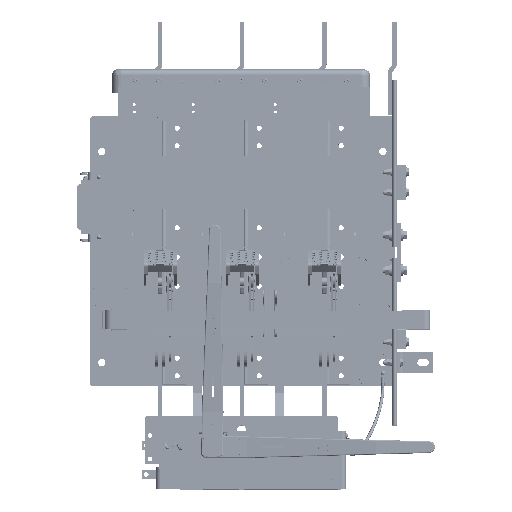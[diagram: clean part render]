
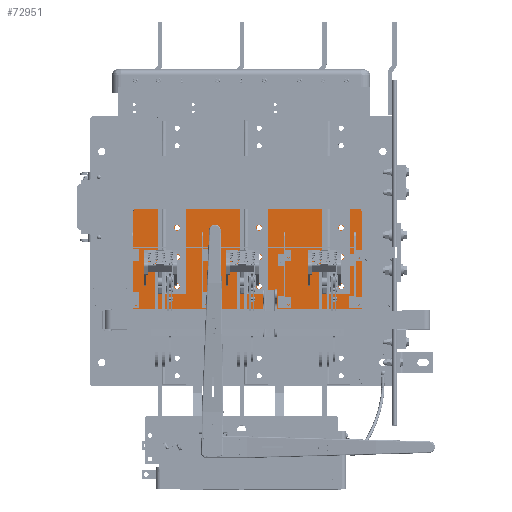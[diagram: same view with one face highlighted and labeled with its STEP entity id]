
A CAD part, top view. The second image highlights one B-rep face of the part: STEP entity #72951.
In plain terms, the highlighted planar face has unit normal (0, 0, 1).
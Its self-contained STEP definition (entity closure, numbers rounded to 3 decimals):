
#3208=FACE_BOUND('',#11629,.T.);
#3209=FACE_BOUND('',#11630,.T.);
#3210=FACE_BOUND('',#11631,.T.);
#3211=FACE_BOUND('',#11632,.T.);
#3212=FACE_BOUND('',#11633,.T.);
#3213=FACE_BOUND('',#11634,.T.);
#3214=FACE_BOUND('',#11635,.T.);
#3215=FACE_BOUND('',#11636,.T.);
#3216=FACE_BOUND('',#11637,.T.);
#3217=FACE_BOUND('',#11638,.T.);
#3218=FACE_BOUND('',#11639,.T.);
#3219=FACE_BOUND('',#11640,.T.);
#3220=FACE_BOUND('',#11641,.T.);
#3221=FACE_BOUND('',#11642,.T.);
#3222=FACE_BOUND('',#11643,.T.);
#3223=FACE_BOUND('',#11644,.T.);
#3224=FACE_BOUND('',#11645,.T.);
#4756=PLANE('',#79769);
#7348=FACE_OUTER_BOUND('',#11628,.T.);
#11628=EDGE_LOOP('',(#54333,#54334,#54335,#54336,#54337,#54338));
#11629=EDGE_LOOP('',(#54339));
#11630=EDGE_LOOP('',(#54340));
#11631=EDGE_LOOP('',(#54341));
#11632=EDGE_LOOP('',(#54342));
#11633=EDGE_LOOP('',(#54343));
#11634=EDGE_LOOP('',(#54344));
#11635=EDGE_LOOP('',(#54345));
#11636=EDGE_LOOP('',(#54346));
#11637=EDGE_LOOP('',(#54347));
#11638=EDGE_LOOP('',(#54348));
#11639=EDGE_LOOP('',(#54349));
#11640=EDGE_LOOP('',(#54350));
#11641=EDGE_LOOP('',(#54351));
#11642=EDGE_LOOP('',(#54352));
#11643=EDGE_LOOP('',(#54353));
#11644=EDGE_LOOP('',(#54354));
#11645=EDGE_LOOP('',(#54355));
#16666=CIRCLE('',#79552,0.07);
#16668=CIRCLE('',#79556,0.07);
#16670=CIRCLE('',#79560,0.07);
#16672=CIRCLE('',#79564,0.07);
#16674=CIRCLE('',#79568,0.07);
#16676=CIRCLE('',#79572,0.07);
#16678=CIRCLE('',#79576,0.07);
#16680=CIRCLE('',#79580,0.07);
#16684=CIRCLE('',#79588,0.219);
#16685=CIRCLE('',#79590,0.219);
#16686=CIRCLE('',#79592,0.219);
#16687=CIRCLE('',#79594,0.219);
#16688=CIRCLE('',#79596,0.219);
#16689=CIRCLE('',#79598,0.219);
#16690=CIRCLE('',#79600,0.219);
#16691=CIRCLE('',#79602,0.219);
#16692=CIRCLE('',#79604,0.219);
#16771=CIRCLE('',#79763,0.237);
#16772=CIRCLE('',#79768,0.237);
#20561=LINE('',#112351,#26864);
#20565=LINE('',#112360,#26868);
#20567=LINE('',#112364,#26870);
#20569=LINE('',#112368,#26872);
#26864=VECTOR('',#90725,0.394);
#26868=VECTOR('',#90735,0.394);
#26870=VECTOR('',#90739,0.394);
#26872=VECTOR('',#90743,0.394);
#33353=VERTEX_POINT('',#111892);
#33355=VERTEX_POINT('',#111899);
#33357=VERTEX_POINT('',#111906);
#33359=VERTEX_POINT('',#111913);
#33361=VERTEX_POINT('',#111920);
#33363=VERTEX_POINT('',#111927);
#33365=VERTEX_POINT('',#111934);
#33367=VERTEX_POINT('',#111941);
#33371=VERTEX_POINT('',#111955);
#33372=VERTEX_POINT('',#111959);
#33373=VERTEX_POINT('',#111963);
#33374=VERTEX_POINT('',#111967);
#33375=VERTEX_POINT('',#111971);
#33376=VERTEX_POINT('',#111975);
#33377=VERTEX_POINT('',#111979);
#33378=VERTEX_POINT('',#111983);
#33379=VERTEX_POINT('',#111987);
#33491=VERTEX_POINT('',#112349);
#33492=VERTEX_POINT('',#112350);
#33493=VERTEX_POINT('',#112355);
#33494=VERTEX_POINT('',#112359);
#33495=VERTEX_POINT('',#112363);
#33496=VERTEX_POINT('',#112367);
#41027=EDGE_CURVE('',#33353,#33353,#16666,.T.);
#41030=EDGE_CURVE('',#33355,#33355,#16668,.T.);
#41033=EDGE_CURVE('',#33357,#33357,#16670,.T.);
#41036=EDGE_CURVE('',#33359,#33359,#16672,.T.);
#41039=EDGE_CURVE('',#33361,#33361,#16674,.T.);
#41042=EDGE_CURVE('',#33363,#33363,#16676,.T.);
#41045=EDGE_CURVE('',#33365,#33365,#16678,.T.);
#41048=EDGE_CURVE('',#33367,#33367,#16680,.T.);
#41054=EDGE_CURVE('',#33371,#33371,#16684,.T.);
#41056=EDGE_CURVE('',#33372,#33372,#16685,.T.);
#41058=EDGE_CURVE('',#33373,#33373,#16686,.T.);
#41060=EDGE_CURVE('',#33374,#33374,#16687,.T.);
#41062=EDGE_CURVE('',#33375,#33375,#16688,.T.);
#41064=EDGE_CURVE('',#33376,#33376,#16689,.T.);
#41066=EDGE_CURVE('',#33377,#33377,#16690,.T.);
#41068=EDGE_CURVE('',#33378,#33378,#16691,.T.);
#41070=EDGE_CURVE('',#33379,#33379,#16692,.T.);
#41241=EDGE_CURVE('',#33491,#33492,#20561,.T.);
#41244=EDGE_CURVE('',#33492,#33493,#16771,.T.);
#41246=EDGE_CURVE('',#33493,#33494,#20565,.T.);
#41248=EDGE_CURVE('',#33494,#33495,#20567,.T.);
#41250=EDGE_CURVE('',#33495,#33496,#20569,.T.);
#41252=EDGE_CURVE('',#33496,#33491,#16772,.T.);
#54333=ORIENTED_EDGE('',*,*,#41241,.F.);
#54334=ORIENTED_EDGE('',*,*,#41252,.F.);
#54335=ORIENTED_EDGE('',*,*,#41250,.F.);
#54336=ORIENTED_EDGE('',*,*,#41248,.F.);
#54337=ORIENTED_EDGE('',*,*,#41246,.F.);
#54338=ORIENTED_EDGE('',*,*,#41244,.F.);
#54339=ORIENTED_EDGE('',*,*,#41027,.T.);
#54340=ORIENTED_EDGE('',*,*,#41030,.T.);
#54341=ORIENTED_EDGE('',*,*,#41033,.T.);
#54342=ORIENTED_EDGE('',*,*,#41036,.T.);
#54343=ORIENTED_EDGE('',*,*,#41039,.T.);
#54344=ORIENTED_EDGE('',*,*,#41042,.T.);
#54345=ORIENTED_EDGE('',*,*,#41045,.T.);
#54346=ORIENTED_EDGE('',*,*,#41048,.T.);
#54347=ORIENTED_EDGE('',*,*,#41054,.T.);
#54348=ORIENTED_EDGE('',*,*,#41056,.T.);
#54349=ORIENTED_EDGE('',*,*,#41058,.T.);
#54350=ORIENTED_EDGE('',*,*,#41060,.T.);
#54351=ORIENTED_EDGE('',*,*,#41062,.T.);
#54352=ORIENTED_EDGE('',*,*,#41064,.T.);
#54353=ORIENTED_EDGE('',*,*,#41066,.T.);
#54354=ORIENTED_EDGE('',*,*,#41068,.T.);
#54355=ORIENTED_EDGE('',*,*,#41070,.T.);
#72951=ADVANCED_FACE('',(#7348,#3208,#3209,#3210,#3211,#3212,#3213,#3214,
#3215,#3216,#3217,#3218,#3219,#3220,#3221,#3222,#3223,#3224),#4756,.T.);
#79552=AXIS2_PLACEMENT_3D('',#111893,#90196,#90197);
#79556=AXIS2_PLACEMENT_3D('',#111900,#90205,#90206);
#79560=AXIS2_PLACEMENT_3D('',#111907,#90214,#90215);
#79564=AXIS2_PLACEMENT_3D('',#111914,#90223,#90224);
#79568=AXIS2_PLACEMENT_3D('',#111921,#90232,#90233);
#79572=AXIS2_PLACEMENT_3D('',#111928,#90241,#90242);
#79576=AXIS2_PLACEMENT_3D('',#111935,#90250,#90251);
#79580=AXIS2_PLACEMENT_3D('',#111942,#90259,#90260);
#79588=AXIS2_PLACEMENT_3D('',#111956,#90277,#90278);
#79590=AXIS2_PLACEMENT_3D('',#111960,#90282,#90283);
#79592=AXIS2_PLACEMENT_3D('',#111964,#90287,#90288);
#79594=AXIS2_PLACEMENT_3D('',#111968,#90292,#90293);
#79596=AXIS2_PLACEMENT_3D('',#111972,#90297,#90298);
#79598=AXIS2_PLACEMENT_3D('',#111976,#90302,#90303);
#79600=AXIS2_PLACEMENT_3D('',#111980,#90307,#90308);
#79602=AXIS2_PLACEMENT_3D('',#111984,#90312,#90313);
#79604=AXIS2_PLACEMENT_3D('',#111988,#90317,#90318);
#79763=AXIS2_PLACEMENT_3D('',#112356,#90730,#90731);
#79768=AXIS2_PLACEMENT_3D('',#112371,#90747,#90748);
#79769=AXIS2_PLACEMENT_3D('',#112372,#90749,#90750);
#90196=DIRECTION('center_axis',(0.,0.,-1.));
#90197=DIRECTION('ref_axis',(-1.,0.,0.));
#90205=DIRECTION('center_axis',(0.,0.,-1.));
#90206=DIRECTION('ref_axis',(-1.,0.,0.));
#90214=DIRECTION('center_axis',(0.,0.,-1.));
#90215=DIRECTION('ref_axis',(-1.,0.,0.));
#90223=DIRECTION('center_axis',(0.,0.,-1.));
#90224=DIRECTION('ref_axis',(-1.,0.,0.));
#90232=DIRECTION('center_axis',(0.,0.,-1.));
#90233=DIRECTION('ref_axis',(-1.,0.,0.));
#90241=DIRECTION('center_axis',(0.,0.,-1.));
#90242=DIRECTION('ref_axis',(-1.,0.,0.));
#90250=DIRECTION('center_axis',(0.,0.,-1.));
#90251=DIRECTION('ref_axis',(-1.,0.,0.));
#90259=DIRECTION('center_axis',(0.,0.,-1.));
#90260=DIRECTION('ref_axis',(-1.,0.,0.));
#90277=DIRECTION('center_axis',(0.,0.,-1.));
#90278=DIRECTION('ref_axis',(-1.,0.,0.));
#90282=DIRECTION('center_axis',(0.,0.,-1.));
#90283=DIRECTION('ref_axis',(-1.,0.,0.));
#90287=DIRECTION('center_axis',(0.,0.,-1.));
#90288=DIRECTION('ref_axis',(-1.,0.,0.));
#90292=DIRECTION('center_axis',(0.,0.,-1.));
#90293=DIRECTION('ref_axis',(-1.,0.,0.));
#90297=DIRECTION('center_axis',(0.,0.,-1.));
#90298=DIRECTION('ref_axis',(-1.,0.,0.));
#90302=DIRECTION('center_axis',(0.,0.,-1.));
#90303=DIRECTION('ref_axis',(-1.,0.,0.));
#90307=DIRECTION('center_axis',(0.,0.,-1.));
#90308=DIRECTION('ref_axis',(-1.,0.,0.));
#90312=DIRECTION('center_axis',(0.,0.,-1.));
#90313=DIRECTION('ref_axis',(-1.,0.,0.));
#90317=DIRECTION('center_axis',(0.,0.,-1.));
#90318=DIRECTION('ref_axis',(-1.,0.,0.));
#90725=DIRECTION('',(1.,0.,0.));
#90730=DIRECTION('center_axis',(0.,0.,-1.));
#90731=DIRECTION('ref_axis',(-1.,0.,0.));
#90735=DIRECTION('',(0.,-1.,0.));
#90739=DIRECTION('',(-1.,0.,0.));
#90743=DIRECTION('',(0.,1.,0.));
#90747=DIRECTION('center_axis',(0.,0.,-1.));
#90748=DIRECTION('ref_axis',(0.,-1.,0.));
#90749=DIRECTION('center_axis',(0.,0.,1.));
#90750=DIRECTION('ref_axis',(1.,0.,0.));
#111892=CARTESIAN_POINT('',(38.758,-12.063,0.5));
#111893=CARTESIAN_POINT('Origin',(38.688,-12.063,0.5));
#111899=CARTESIAN_POINT('',(45.758,-12.063,0.5));
#111900=CARTESIAN_POINT('Origin',(45.688,-12.063,0.5));
#111906=CARTESIAN_POINT('',(51.758,-12.063,0.5));
#111907=CARTESIAN_POINT('Origin',(51.688,-12.063,0.5));
#111913=CARTESIAN_POINT('',(51.758,-16.063,0.5));
#111914=CARTESIAN_POINT('Origin',(51.688,-16.063,0.5));
#111920=CARTESIAN_POINT('',(45.758,-16.063,0.5));
#111921=CARTESIAN_POINT('Origin',(45.688,-16.063,0.5));
#111927=CARTESIAN_POINT('',(38.758,-16.063,0.5));
#111928=CARTESIAN_POINT('Origin',(38.688,-16.063,0.5));
#111934=CARTESIAN_POINT('',(32.758,-16.063,0.5));
#111935=CARTESIAN_POINT('Origin',(32.688,-16.063,0.5));
#111941=CARTESIAN_POINT('',(32.758,-12.063,0.5));
#111942=CARTESIAN_POINT('Origin',(32.688,-12.063,0.5));
#111955=CARTESIAN_POINT('',(50.406,-9.5,0.5));
#111956=CARTESIAN_POINT('Origin',(50.188,-9.5,0.5));
#111959=CARTESIAN_POINT('',(50.406,-12.,0.5));
#111960=CARTESIAN_POINT('Origin',(50.188,-12.,0.5));
#111963=CARTESIAN_POINT('',(50.406,-14.5,0.5));
#111964=CARTESIAN_POINT('Origin',(50.188,-14.5,0.5));
#111967=CARTESIAN_POINT('',(43.406,-9.5,0.5));
#111968=CARTESIAN_POINT('Origin',(43.188,-9.5,0.5));
#111971=CARTESIAN_POINT('',(43.406,-12.,0.5));
#111972=CARTESIAN_POINT('Origin',(43.188,-12.,0.5));
#111975=CARTESIAN_POINT('',(43.406,-14.5,0.5));
#111976=CARTESIAN_POINT('Origin',(43.188,-14.5,0.5));
#111979=CARTESIAN_POINT('',(36.406,-14.5,0.5));
#111980=CARTESIAN_POINT('Origin',(36.188,-14.5,0.5));
#111983=CARTESIAN_POINT('',(36.406,-12.,0.5));
#111984=CARTESIAN_POINT('Origin',(36.188,-12.,0.5));
#111987=CARTESIAN_POINT('',(36.406,-9.5,0.5));
#111988=CARTESIAN_POINT('Origin',(36.188,-9.5,0.5));
#112349=CARTESIAN_POINT('',(32.688,-7.888,0.5));
#112350=CARTESIAN_POINT('',(51.688,-7.888,0.5));
#112351=CARTESIAN_POINT('',(32.688,-7.888,0.5));
#112355=CARTESIAN_POINT('',(51.924,-8.125,0.5));
#112356=CARTESIAN_POINT('Origin',(51.688,-8.125,0.5));
#112359=CARTESIAN_POINT('',(51.924,-16.461,0.5));
#112360=CARTESIAN_POINT('',(51.924,-8.125,0.5));
#112363=CARTESIAN_POINT('',(32.451,-16.461,0.5));
#112364=CARTESIAN_POINT('',(51.938,-16.461,0.5));
#112367=CARTESIAN_POINT('',(32.451,-8.125,0.5));
#112368=CARTESIAN_POINT('',(32.451,-16.474,0.5));
#112371=CARTESIAN_POINT('Origin',(32.688,-8.125,0.5));
#112372=CARTESIAN_POINT('Origin',(42.188,-12.191,0.5));
